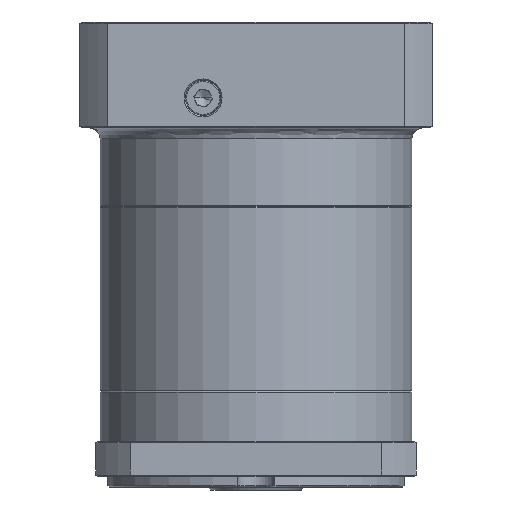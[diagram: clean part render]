
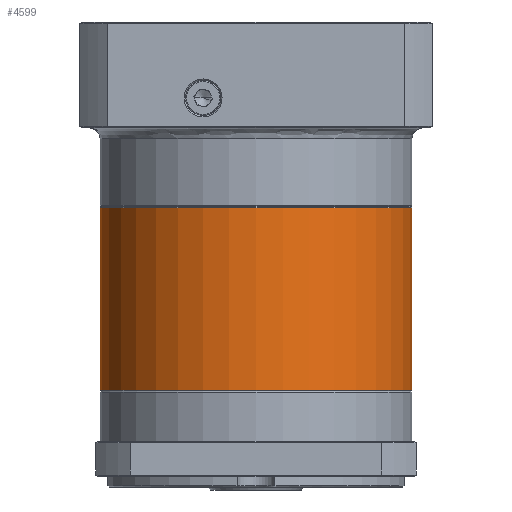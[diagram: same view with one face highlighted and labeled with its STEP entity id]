
A CAD part, front view. The second image highlights one B-rep face of the part: STEP entity #4599.
In plain terms, the highlighted cylindrical face has radius 57.5 mm (diameter 115 mm), a partial arc.
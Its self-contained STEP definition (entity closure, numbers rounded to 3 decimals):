
#4599 = ADVANCED_FACE ( 'NONE', ( #129304 ), #6338, .T. ) ;
#6338 = CYLINDRICAL_SURFACE ( 'NONE', #66031, 57.5 ) ;
#7349 = CARTESIAN_POINT ( 'NONE',  ( 3.047, 56.49, -44.694 ) ) ;
#11802 = AXIS2_PLACEMENT_3D ( 'NONE', #27795, #77459, #16311 ) ;
#12005 = CARTESIAN_POINT ( 'NONE',  ( 118.047, 56.49, -44.694 ) ) ;
#15813 = VERTEX_POINT ( 'NONE', #110485 ) ;
#16090 = CARTESIAN_POINT ( 'NONE',  ( 3.047, 56.49, -44.194 ) ) ;
#16311 = DIRECTION ( 'NONE',  ( -1., 0., 0. ) ) ;
#16489 = CIRCLE ( 'NONE', #108200, 57.5 ) ;
#26120 = CARTESIAN_POINT ( 'NONE',  ( 60.547, 56.49, -44.694 ) ) ;
#27795 = CARTESIAN_POINT ( 'NONE',  ( 60.547, 56.49, -44.694 ) ) ;
#28344 = DIRECTION ( 'NONE',  ( 0., 0., -1. ) ) ;
#28482 = DIRECTION ( 'NONE',  ( -1., 0., 0. ) ) ;
#36813 = ORIENTED_EDGE ( 'NONE', *, *, #66701, .T. ) ;
#37722 = DIRECTION ( 'NONE',  ( 0., 0., 1. ) ) ;
#41376 = EDGE_CURVE ( 'NONE', #106943, #97975, #65999, .T. ) ;
#42582 = EDGE_CURVE ( 'NONE', #97975, #74686, #113381, .T. ) ;
#49095 = EDGE_LOOP ( 'NONE', ( #60302, #102463, #36813, #111545, #60021 ) ) ;
#51999 = AXIS2_PLACEMENT_3D ( 'NONE', #129647, #37722, #28482 ) ;
#58242 = EDGE_CURVE ( 'NONE', #95184, #74686, #100539, .T. ) ;
#58287 = CARTESIAN_POINT ( 'NONE',  ( 3.047, 56.49, -111.906 ) ) ;
#59739 = CIRCLE ( 'NONE', #11802, 57.5 ) ;
#60021 = ORIENTED_EDGE ( 'NONE', *, *, #42582, .T. ) ;
#60302 = ORIENTED_EDGE ( 'NONE', *, *, #58242, .F. ) ;
#65999 = LINE ( 'NONE', #16090, #116437 ) ;
#66031 = AXIS2_PLACEMENT_3D ( 'NONE', #96627, #127848, #107627 ) ;
#66701 = EDGE_CURVE ( 'NONE', #15813, #106943, #16489, .T. ) ;
#74686 = VERTEX_POINT ( 'NONE', #83894 ) ;
#77459 = DIRECTION ( 'NONE',  ( 0., 0., -1. ) ) ;
#78865 = DIRECTION ( 'NONE',  ( -1., 0., 0. ) ) ;
#83894 = CARTESIAN_POINT ( 'NONE',  ( 118.047, 56.49, -111.906 ) ) ;
#94800 = DIRECTION ( 'NONE',  ( 0., 0., -1. ) ) ;
#95184 = VERTEX_POINT ( 'NONE', #12005 ) ;
#96627 = CARTESIAN_POINT ( 'NONE',  ( 60.547, 56.49, -44.194 ) ) ;
#97975 = VERTEX_POINT ( 'NONE', #58287 ) ;
#100539 = LINE ( 'NONE', #113760, #124140 ) ;
#102463 = ORIENTED_EDGE ( 'NONE', *, *, #110926, .T. ) ;
#106943 = VERTEX_POINT ( 'NONE', #7349 ) ;
#107627 = DIRECTION ( 'NONE',  ( -1., 0., 0. ) ) ;
#108200 = AXIS2_PLACEMENT_3D ( 'NONE', #26120, #28344, #78865 ) ;
#110485 = CARTESIAN_POINT ( 'NONE',  ( 60.547, -1.01, -44.694 ) ) ;
#110926 = EDGE_CURVE ( 'NONE', #95184, #15813, #59739, .T. ) ;
#111545 = ORIENTED_EDGE ( 'NONE', *, *, #41376, .T. ) ;
#113381 = CIRCLE ( 'NONE', #51999, 57.5 ) ;
#113760 = CARTESIAN_POINT ( 'NONE',  ( 118.047, 56.49, -44.194 ) ) ;
#116437 = VECTOR ( 'NONE', #126166, 1000. ) ;
#124140 = VECTOR ( 'NONE', #94800, 1000. ) ;
#126166 = DIRECTION ( 'NONE',  ( 0., 0., -1. ) ) ;
#127848 = DIRECTION ( 'NONE',  ( 0., 0., -1. ) ) ;
#129304 = FACE_OUTER_BOUND ( 'NONE', #49095, .T. ) ;
#129647 = CARTESIAN_POINT ( 'NONE',  ( 60.547, 56.49, -111.906 ) ) ;
